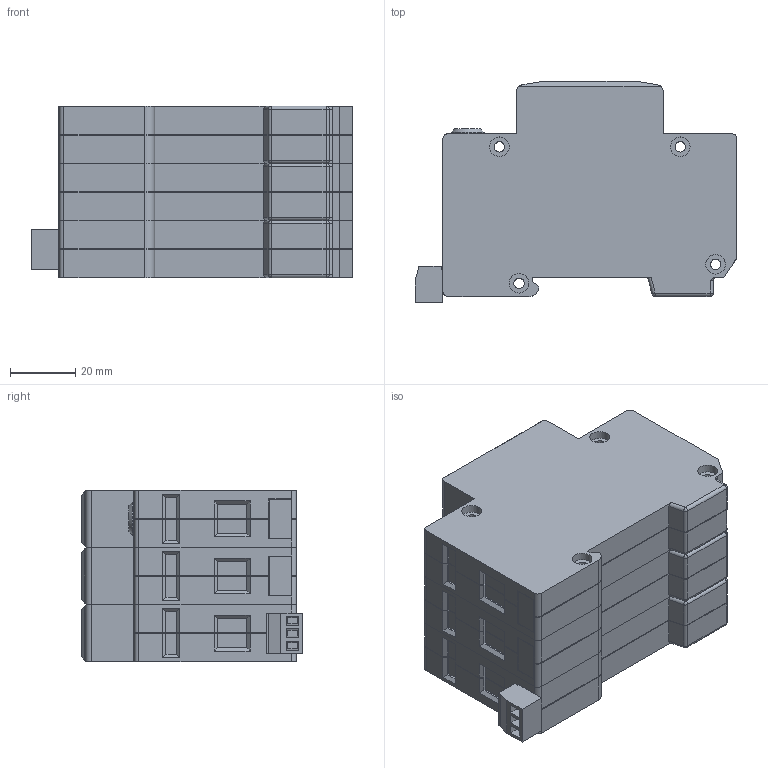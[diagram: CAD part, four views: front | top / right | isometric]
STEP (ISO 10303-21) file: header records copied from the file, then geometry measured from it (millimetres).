
FILE_DESCRIPTION(/* description */ (''),/* implementation_level */ '2;1');
FILE_NAME(/* name */ 'K:\PROJEKTY ROZPRACOVANÉ\MODELY DO KATALOGU\HSA, HLSA 24520, 10007\3D - STEP\HLSA 3+0 S.stp',/* time_stamp */ '2020-03-17T07:39:06+01:00',/* author */ ('M Koliska'),/* organization */ (''),/* preprocessor_version */ 'ST-DEVELOPER v18',/* originating_system */ 'Autodesk Inventor 2020',/* authorisation */ '');
FILE_SCHEMA (('AUTOMOTIVE_DESIGN { 1 0 10303 214 3 1 1 }'));
Length unit declared in the file: millimetre
Products named in the file (12): HLSA 3+0 S; HLSA S; HLSA S_1; KONEKTOR DEGSON 15EDGK 3.81; KONEKTOR SAMEC; ISO 2009 - M1,6 x 2,5; KONEKTOR DEGSON 15EDGRC 3.81 (OBRÁCENÉ VÝV
ODY); HLSA; HLSA_1; HLSA (Z); HLSA (Z)_1; DIN 7985 (H) - M5x6-H
Assembly tree (17 placements, depth 4):
  HLSA 3+0 S
    HLSA S
      HLSA S_1
      DIN 7985 (H) - M5x6-H  x2
      KONEKTOR DEGSON 15EDGK 3.81
        KONEKTOR SAMEC
        ISO 2009 - M1,6 x 2,5  x3
      KONEKTOR DEGSON 15EDGRC 3.81 (OBRÁCENÉ VÝV
ODY)
    HLSA
      HLSA_1
      DIN 7985 (H) - M5x6-H  x2
    HLSA (Z)
      HLSA (Z)_1
      DIN 7985 (H) - M5x6-H
Bounding box: 98.5 x 67.6 x 52.5 mm (x, y, z)
Volume: 253966.8 mm3; surface area: 56673 mm2
Topology: 13 solids, 13 shells, 1126 faces, 3048 edges, 2014 vertices
Faces by surface type: plane 814, cylinder 180, cone 98, torus 17, sphere 17
Full cylindrical faces by diameter (mm): 0.968 x3, 1 x6, 1.171 x3, 1.6 x3, 1.9 x3, 2 x3, 2.5 x3, 3.2 x12, 4.6 x5, 5 x5, 6 x24, 10 x1
Entity records: 30046 total; most frequent: CARTESIAN_POINT 5299, ORIENTED_EDGE 5108, DIRECTION 4962, EDGE_CURVE 2554, LINE 2040, VECTOR 2040, VERTEX_POINT 1682, AXIS2_PLACEMENT_3D 1461
